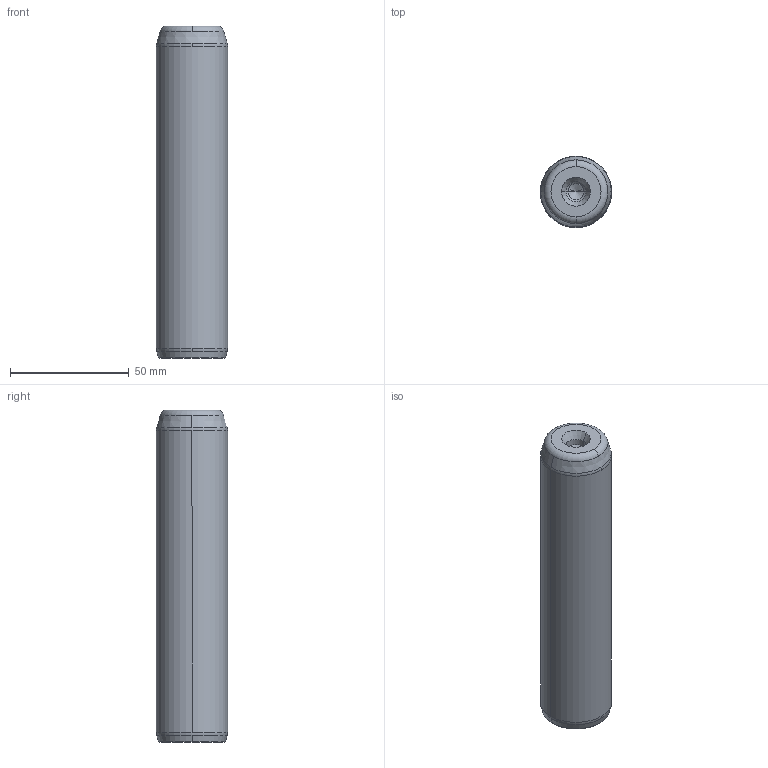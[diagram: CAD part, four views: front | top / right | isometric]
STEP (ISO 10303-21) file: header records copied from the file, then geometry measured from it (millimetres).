
FILE_DESCRIPTION((''),'2;1');
FILE_NAME('P10_030_140.stp','2008-12-23T14:58:49',(''),(''),'Mechanical Desktop 2009','Mechanical Desktop 2009',', , ');
FILE_SCHEMA(('CONFIG_CONTROL_DESIGN'));
Length unit declared in the file: millimetre
Products named in the file (5): Product; ProductAA; blmdl1; ProductA; blmdl1A
Assembly tree (2 placements, depth 3):
  Product
    ProductAA
      blmdl1
  ProductA
  blmdl1A
Bounding box: 30 x 30 x 140 mm (x, y, z)
Volume: 96806.4 mm3; surface area: 14777.4 mm2
Topology: 1 solids, 1 shells, 26 faces, 66 edges, 41 vertices
Faces by surface type: cone 10, torus 8, cylinder 6, plane 2
Entity records: 1012 total; most frequent: DIRECTION 170, CARTESIAN_POINT 134, ORIENTED_EDGE 128, AXIS2_PLACEMENT_3D 77, EDGE_CURVE 64, CIRCLE 48, VERTEX_POINT 41, EDGE_LOOP 27
